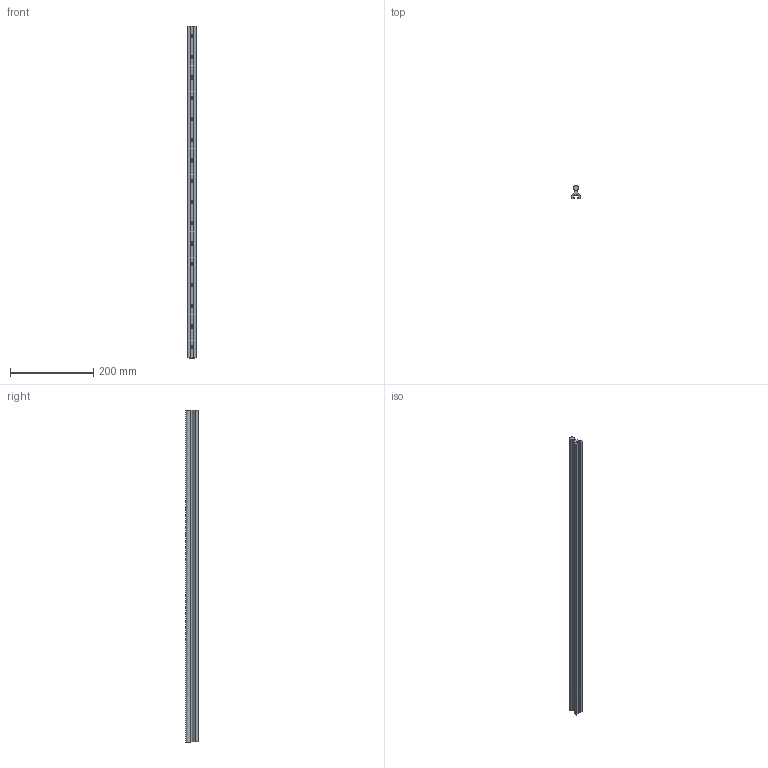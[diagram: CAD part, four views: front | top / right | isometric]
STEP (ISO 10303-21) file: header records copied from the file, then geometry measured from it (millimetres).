
FILE_DESCRIPTION (( 'STEP AP203' ), '1' );
FILE_NAME ('LFS-12-11_-_LFS-12-11 L=798 - ArtNr 220002 0798.step', '2015-05-04T10:55:17', ( '' ), ( '' ), 'SwSTEP 2.0', 'SolidWorks 2014', '' );
FILE_SCHEMA (( 'CONFIG_CONTROL_DESIGN' ));
Length unit declared in the file: millimetre
Products named in the file (1): LFS-12-11_-_LFS-12-11 L=798 - ArtNr 220002 0798
Bounding box: 20 x 31 x 800 mm (x, y, z)
Volume: 241565.2 mm3; surface area: 108364.6 mm2
Topology: 1 solids, 1 shells, 574 faces, 1544 edges, 986 vertices
Faces by surface type: plane 271, cylinder 271, cone 16, torus 16
Full cylindrical faces by diameter (mm): 7 x16, 8 x16, 12 x1
Entity records: 18468 total; most frequent: CARTESIAN_POINT 5406, ORIENTED_EDGE 2892, DIRECTION 2373, EDGE_CURVE 1446, VERTEX_POINT 953, AXIS2_PLACEMENT_3D 800, VECTOR 773, LINE 773
